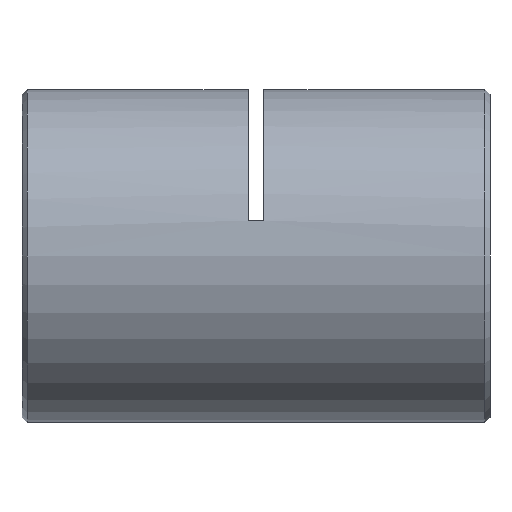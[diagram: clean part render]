
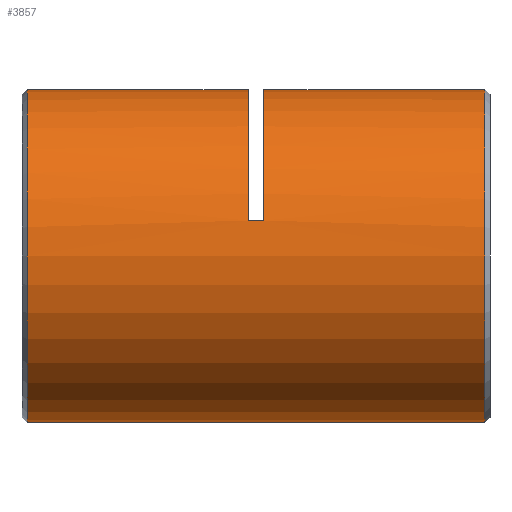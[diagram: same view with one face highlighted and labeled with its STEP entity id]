
A CAD part, left-side view. The second image highlights one B-rep face of the part: STEP entity #3857.
In plain terms, the highlighted cylindrical face has radius 16 mm (diameter 32 mm), a partial arc.
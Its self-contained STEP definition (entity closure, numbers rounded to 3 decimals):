
#35 = AXIS2_PLACEMENT_3D ( 'NONE', #5064, #1154, #5161 ) ;
#325 = DIRECTION ( 'NONE',  ( 0., 1., 0. ) ) ;
#405 = AXIS2_PLACEMENT_3D ( 'NONE', #5175, #4656, #1715 ) ;
#541 = VECTOR ( 'NONE', #688, 1000. ) ;
#572 = CARTESIAN_POINT ( 'NONE',  ( -15.632, 22., 3.413 ) ) ;
#616 = ORIENTED_EDGE ( 'NONE', *, *, #2797, .F. ) ;
#688 = DIRECTION ( 'NONE',  ( 0., 1., 0. ) ) ;
#871 = DIRECTION ( 'NONE',  ( 0., 1., 0. ) ) ;
#930 = ORIENTED_EDGE ( 'NONE', *, *, #5120, .T. ) ;
#965 = DIRECTION ( 'NONE',  ( 0., 1., 0. ) ) ;
#1132 = LINE ( 'NONE', #2802, #5436 ) ;
#1154 = DIRECTION ( 'NONE',  ( 0., -1., 0. ) ) ;
#1196 = EDGE_CURVE ( 'NONE', #3322, #2376, #2874, .T. ) ;
#1240 = DIRECTION ( 'NONE',  ( 0., 1., 0. ) ) ;
#1369 = ORIENTED_EDGE ( 'NONE', *, *, #6207, .T. ) ;
#1478 = CARTESIAN_POINT ( 'NONE',  ( 0., 22., 0. ) ) ;
#1479 = CARTESIAN_POINT ( 'NONE',  ( 0., 44.75, 16. ) ) ;
#1595 = ORIENTED_EDGE ( 'NONE', *, *, #1196, .T. ) ;
#1715 = DIRECTION ( 'NONE',  ( 0., 0., 1. ) ) ;
#1898 = EDGE_CURVE ( 'NONE', #4409, #3813, #6282, .T. ) ;
#1899 = CARTESIAN_POINT ( 'NONE',  ( 0., 0., 0. ) ) ;
#2076 = CARTESIAN_POINT ( 'NONE',  ( 0., 22., 16. ) ) ;
#2275 = CARTESIAN_POINT ( 'NONE',  ( 0., 0., 16. ) ) ;
#2354 = CARTESIAN_POINT ( 'NONE',  ( 0., 44.75, -16. ) ) ;
#2376 = VERTEX_POINT ( 'NONE', #2473 ) ;
#2420 = DIRECTION ( 'NONE',  ( 0., 0., 1. ) ) ;
#2473 = CARTESIAN_POINT ( 'NONE',  ( 0., 23.5, 16. ) ) ;
#2506 = CIRCLE ( 'NONE', #35, 16. ) ;
#2579 = ORIENTED_EDGE ( 'NONE', *, *, #3035, .T. ) ;
#2729 = LINE ( 'NONE', #2275, #3058 ) ;
#2797 = EDGE_CURVE ( 'NONE', #4409, #3897, #1132, .T. ) ;
#2802 = CARTESIAN_POINT ( 'NONE',  ( 0., 0., -16. ) ) ;
#2836 = DIRECTION ( 'NONE',  ( 0., 0., 1. ) ) ;
#2871 = FACE_OUTER_BOUND ( 'NONE', #4376, .T. ) ;
#2874 = CIRCLE ( 'NONE', #405, 16. ) ;
#2952 = EDGE_CURVE ( 'NONE', #4395, #3632, #5027, .T. ) ;
#3035 = EDGE_CURVE ( 'NONE', #3813, #3632, #2729, .T. ) ;
#3058 = VECTOR ( 'NONE', #1240, 1000. ) ;
#3126 = CARTESIAN_POINT ( 'NONE',  ( 0., 0.75, 16. ) ) ;
#3317 = ORIENTED_EDGE ( 'NONE', *, *, #4686, .T. ) ;
#3322 = VERTEX_POINT ( 'NONE', #3529 ) ;
#3357 = CYLINDRICAL_SURFACE ( 'NONE', #5029, 16. ) ;
#3516 = ORIENTED_EDGE ( 'NONE', *, *, #1898, .T. ) ;
#3529 = CARTESIAN_POINT ( 'NONE',  ( -15.632, 23.5, 3.413 ) ) ;
#3632 = VERTEX_POINT ( 'NONE', #2076 ) ;
#3649 = LINE ( 'NONE', #5109, #541 ) ;
#3813 = VERTEX_POINT ( 'NONE', #3126 ) ;
#3857 = ADVANCED_FACE ( 'NONE', ( #2871 ), #3357, .T. ) ;
#3897 = VERTEX_POINT ( 'NONE', #2354 ) ;
#3983 = VERTEX_POINT ( 'NONE', #1479 ) ;
#3994 = AXIS2_PLACEMENT_3D ( 'NONE', #1478, #5899, #2420 ) ;
#4376 = EDGE_LOOP ( 'NONE', ( #616, #3516, #2579, #4429, #1369, #1595, #3317, #930 ) ) ;
#4390 = CARTESIAN_POINT ( 'NONE',  ( 0., 0., 16. ) ) ;
#4395 = VERTEX_POINT ( 'NONE', #572 ) ;
#4409 = VERTEX_POINT ( 'NONE', #4865 ) ;
#4429 = ORIENTED_EDGE ( 'NONE', *, *, #2952, .F. ) ;
#4656 = DIRECTION ( 'NONE',  ( 0., 1., 0. ) ) ;
#4686 = EDGE_CURVE ( 'NONE', #2376, #3983, #6239, .T. ) ;
#4865 = CARTESIAN_POINT ( 'NONE',  ( 0., 0.75, -16. ) ) ;
#5027 = CIRCLE ( 'NONE', #3994, 16. ) ;
#5029 = AXIS2_PLACEMENT_3D ( 'NONE', #1899, #871, #2836 ) ;
#5064 = CARTESIAN_POINT ( 'NONE',  ( 0., 44.75, 0. ) ) ;
#5109 = CARTESIAN_POINT ( 'NONE',  ( -15.632, 22.75, 3.413 ) ) ;
#5120 = EDGE_CURVE ( 'NONE', #3983, #3897, #2506, .T. ) ;
#5161 = DIRECTION ( 'NONE',  ( 0., 0., -1. ) ) ;
#5175 = CARTESIAN_POINT ( 'NONE',  ( 0., 23.5, 0. ) ) ;
#5436 = VECTOR ( 'NONE', #325, 1000. ) ;
#5898 = DIRECTION ( 'NONE',  ( 0., 0., 1. ) ) ;
#5899 = DIRECTION ( 'NONE',  ( 0., 1., 0. ) ) ;
#5975 = AXIS2_PLACEMENT_3D ( 'NONE', #6248, #965, #5898 ) ;
#6180 = DIRECTION ( 'NONE',  ( 0., 1., 0. ) ) ;
#6207 = EDGE_CURVE ( 'NONE', #4395, #3322, #3649, .T. ) ;
#6239 = LINE ( 'NONE', #4390, #6267 ) ;
#6248 = CARTESIAN_POINT ( 'NONE',  ( 0., 0.75, 0. ) ) ;
#6267 = VECTOR ( 'NONE', #6180, 1000. ) ;
#6282 = CIRCLE ( 'NONE', #5975, 16. ) ;
